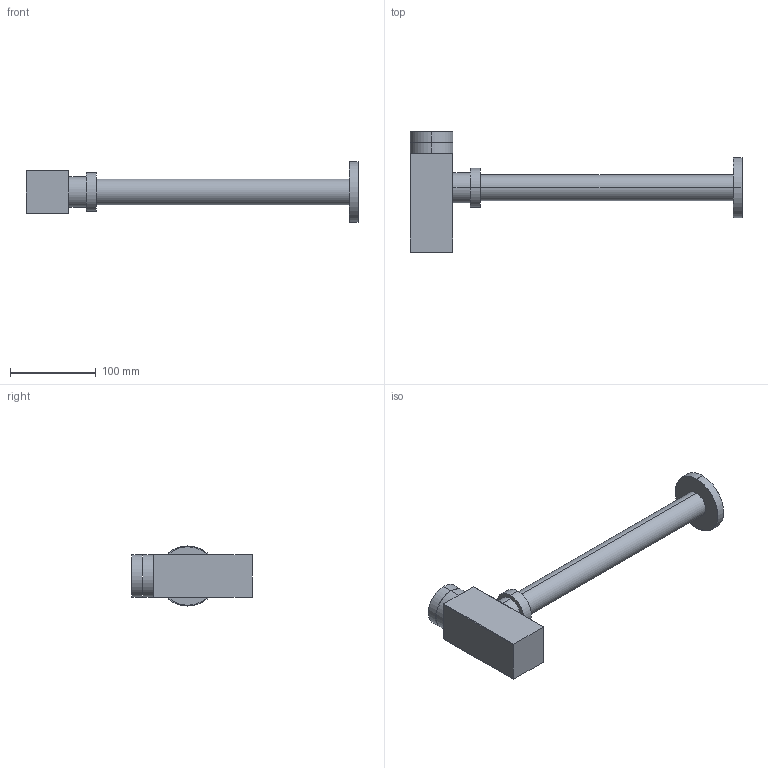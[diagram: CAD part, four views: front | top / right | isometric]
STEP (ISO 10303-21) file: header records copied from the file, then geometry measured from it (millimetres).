
FILE_DESCRIPTION (( 'STEP AP203' ), '1' );
FILE_NAME ('SF.SF194.STEP', '2018-08-13T12:35:08', ( '' ), ( '' ), 'SwSTEP 2.0', 'SolidWorks 2018', '' );
FILE_SCHEMA (( 'CONFIG_CONTROL_DESIGN' ));
Length unit declared in the file: millimetre
Products named in the file (1): SF.SF194
Bounding box: 386.37 x 140 x 70 mm (x, y, z)
Volume: 548462.8 mm3; surface area: 98113.6 mm2
Topology: 8 solids, 8 shells, 60 faces, 114 edges, 76 vertices
Faces by surface type: cylinder 34, plane 26
Entity records: 1617 total; most frequent: DIRECTION 304, CARTESIAN_POINT 251, ORIENTED_EDGE 228, AXIS2_PLACEMENT_3D 129, EDGE_CURVE 114, VERTEX_POINT 76, EDGE_LOOP 70, CIRCLE 68
